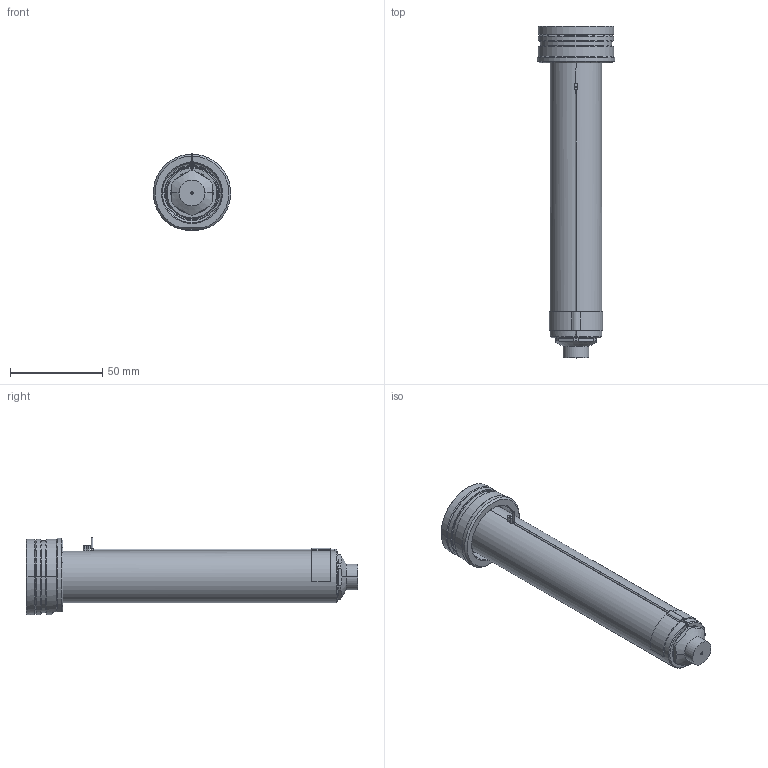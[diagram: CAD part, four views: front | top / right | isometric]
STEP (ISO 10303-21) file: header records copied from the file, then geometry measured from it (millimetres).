
FILE_DESCRIPTION((''),'2;1');
FILE_NAME('EO10_PG-FB_STD_160_SW','2024-02-19T11:33:51',('sundharh'),(''),'CREO PARAMETRIC BY PTC INC, 2023154','CREO PARAMETRIC BY PTC INC, 2023154','');
FILE_SCHEMA(('CONFIG_CONTROL_DESIGN'));
Length unit declared in the file: millimetre
Products named in the file (1): EO10_PG-FB_STD_160_SW
Bounding box: 41.85 x 180 x 42.02 mm (x, y, z)
Volume: 105304.7 mm3; surface area: 28852.3 mm2
Topology: 1 solids, 1 shells, 200 faces, 534 edges, 331 vertices
Faces by surface type: cylinder 80, plane 58, cone 39, torus 17, bspline 3, sphere 3
Entity records: 7302 total; most frequent: CARTESIAN_POINT 2206, DIRECTION 1120, ORIENTED_EDGE 1056, EDGE_CURVE 528, AXIS2_PLACEMENT_3D 467, VERTEX_POINT 331, CIRCLE 270, EDGE_LOOP 217
